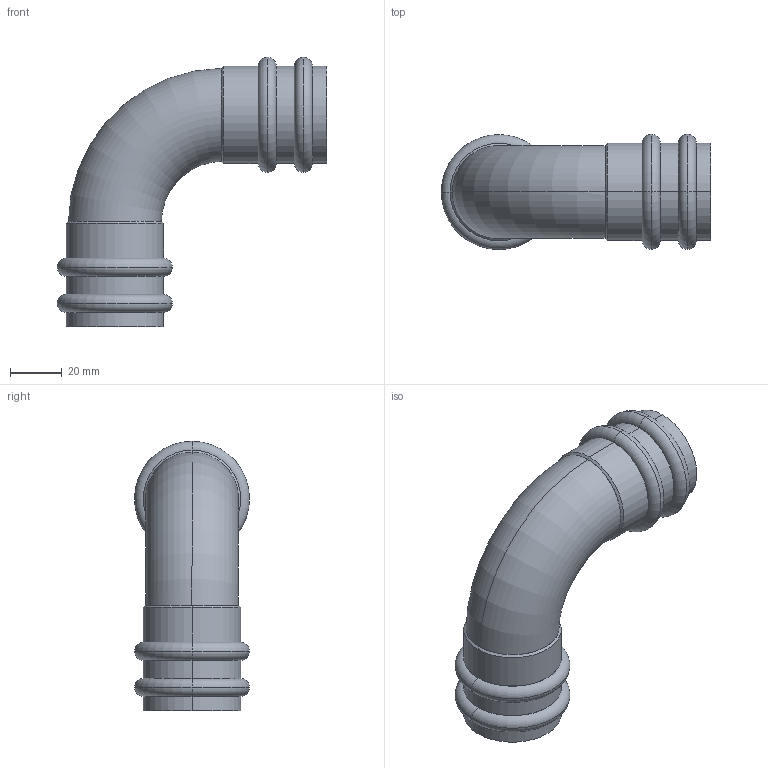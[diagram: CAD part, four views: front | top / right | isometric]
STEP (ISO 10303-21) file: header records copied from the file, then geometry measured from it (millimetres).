
FILE_DESCRIPTION(('starvars output'),'1');
FILE_NAME('cv20240422104940000011595.stp','10:49:41 2024/04/22',('Thomas Industrial Network Germany GmbH'),(' '),'Spatial InterOp 3D',' ',' ');
FILE_SCHEMA(('AUTOMOTIVE_DESIGN { 1 0 10303 214 3 1 1 }'));
Length unit declared in the file: millimetre
Products named in the file (1): 1
Bounding box: 104.25 x 44.5 x 104.25 mm (x, y, z)
Volume: 26173.8 mm3; surface area: 37146.6 mm2
Topology: 1 solids, 1 shells, 70 faces, 140 edges, 88 vertices
Faces by surface type: torus 28, cylinder 20, plane 18, cone 4
Entity records: 2772 total; most frequent: CARTESIAN_POINT 623, DIRECTION 390, ORIENTED_EDGE 280, AXIS2_PLACEMENT_3D 183, EDGE_CURVE 140, CIRCLE 112, EDGE_LOOP 88, VERTEX_POINT 88
